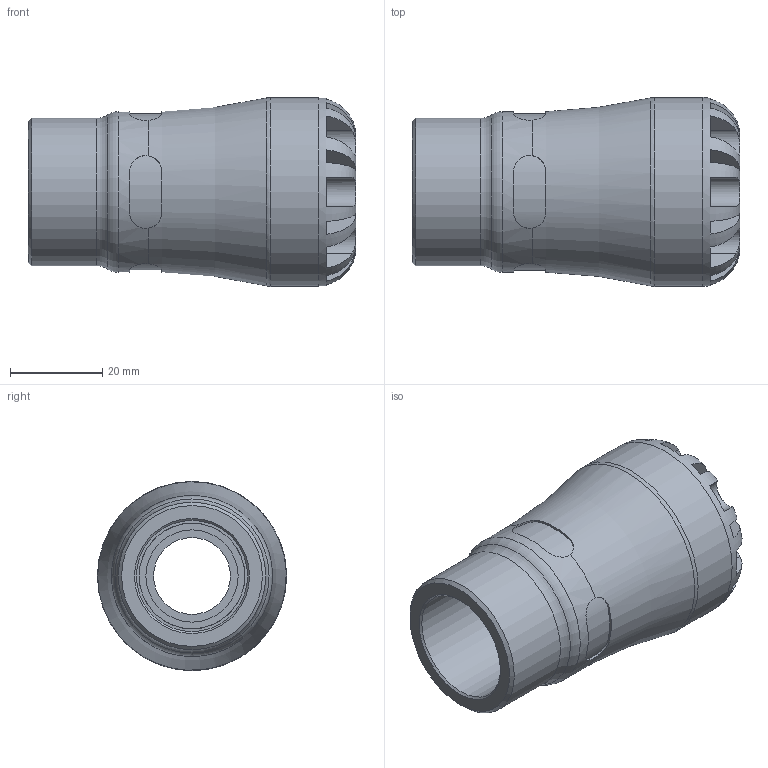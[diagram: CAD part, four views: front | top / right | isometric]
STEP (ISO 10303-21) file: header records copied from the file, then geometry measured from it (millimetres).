
FILE_DESCRIPTION(/* description */ ('PLASSON FEMALE ADAPTOR 20X3/4" SERIES 1'),/* implementation_level */ '2;1');
FILE_NAME(/* name */ 'C:\Dropbox\KIMPROJECTS-Inventor\99-16-3568-Processing\1003\100300020007_190300020007.ipt.step',/* time_stamp */ '2017-01-22T09:49:04+02:00',/* author */ ('KIM'),/* organization */ (''),/* preprocessor_version */ 'ST-DEVELOPER v15.6',/* originating_system */ 'Autodesk Inventor 2015',/* authorisation */ '');
FILE_SCHEMA (('AUTOMOTIVE_DESIGN { 1 0 10303 214 3 1 1 }'));
Length unit declared in the file: millimetre
Products named in the file (1): 100300020007_190300020007
Bounding box: 71 x 41 x 41 mm (x, y, z)
Volume: 46113 mm3; surface area: 15299 mm2
Topology: 1 solids, 1 shells, 106 faces, 269 edges, 169 vertices
Faces by surface type: plane 62, cylinder 36, torus 5, cone 3
Full cylindrical faces by diameter (mm): 16.667 x1, 20 x2, 22.911 x1, 24.117 x1, 31.98 x1, 34.85 x1, 41 x1
Entity records: 3996 total; most frequent: CARTESIAN_POINT 1469, ORIENTED_EDGE 496, DIRECTION 486, EDGE_CURVE 248, AXIS2_PLACEMENT_3D 203, VERTEX_POINT 164, EDGE_LOOP 128, STYLED_ITEM 107
